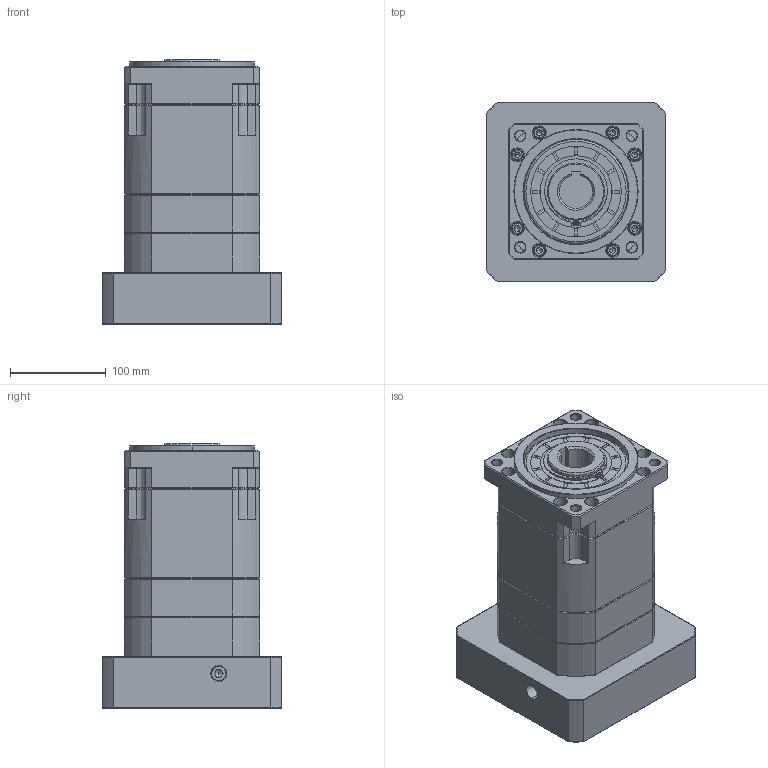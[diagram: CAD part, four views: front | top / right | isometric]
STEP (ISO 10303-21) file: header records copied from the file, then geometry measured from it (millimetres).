
FILE_DESCRIPTION (( 'STEP AP214' ), '1' );
FILE_NAME ('ZB142A-K35-L3-38-180-215-M12.step', '2023-03-17T10:50:54', ( '' ), ( '' ), 'SwSTEP 2.0', 'SolidWorks 2016', '' );
FILE_SCHEMA (( 'AUTOMOTIVE_DESIGN' ));
Length unit declared in the file: millimetre
Products named in the file (1): ZB142A-K35-L3-38-180-215-M12
Bounding box: 188 x 188 x 277.2 mm (x, y, z)
Volume: 5333538.3 mm3; surface area: 366756.8 mm2
Topology: 6 solids, 6 shells, 1989 faces, 5255 edges, 3364 vertices
Faces by surface type: plane 928, cylinder 381, cone 354, bspline 306, torus 20
Entity records: 108019 total; most frequent: CARTESIAN_POINT 39192, ORIENTED_EDGE 10454, DIRECTION 8676, EDGE_CURVE 5227, VERTEX_POINT 3364, VECTOR 3226, LINE 3226, AXIS2_PLACEMENT_3D 2725
